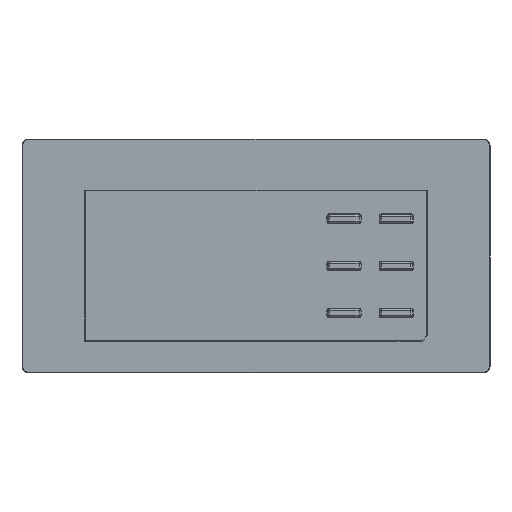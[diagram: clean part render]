
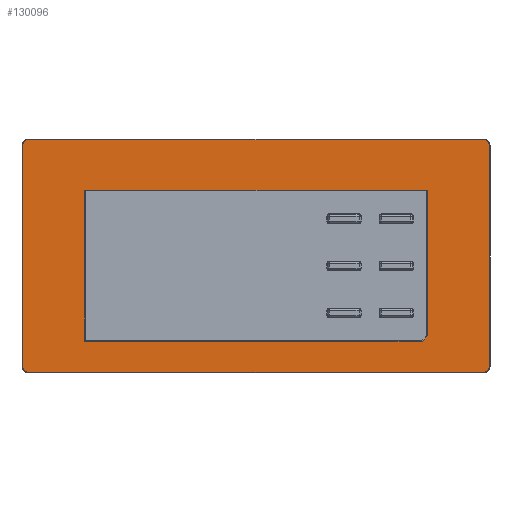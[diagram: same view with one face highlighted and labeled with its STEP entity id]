
A CAD part, top view. The second image highlights one B-rep face of the part: STEP entity #130096.
In plain terms, the highlighted planar face has unit normal (0, 0, 1).
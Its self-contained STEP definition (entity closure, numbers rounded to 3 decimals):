
#1560 = DIRECTION ( 'NONE',  ( 0., -1., 0. ) ) ;
#2993 = ORIENTED_EDGE ( 'NONE', *, *, #28975, .T. ) ;
#6974 = ORIENTED_EDGE ( 'NONE', *, *, #120108, .T. ) ;
#9304 = CARTESIAN_POINT ( 'NONE',  ( -69.9, 35.802, 6. ) ) ;
#10566 = DIRECTION ( 'NONE',  ( -0.707, -0.707, 0. ) ) ;
#11301 = EDGE_CURVE ( 'NONE', #158637, #58558, #93295, .T. ) ;
#13124 = CARTESIAN_POINT ( 'NONE',  ( 71.802, 33.9, 6. ) ) ;
#13651 = VECTOR ( 'NONE', #36610, 1000. ) ;
#13947 = CARTESIAN_POINT ( 'NONE',  ( 71.802, -33.9, 6. ) ) ;
#15464 = DIRECTION ( 'NONE',  ( 0., 1., 0. ) ) ;
#16623 = ORIENTED_EDGE ( 'NONE', *, *, #11301, .T. ) ;
#17005 = CARTESIAN_POINT ( 'NONE',  ( -52.7, 0., 6. ) ) ;
#18045 = FACE_OUTER_BOUND ( 'NONE', #141443, .T. ) ;
#20784 = ORIENTED_EDGE ( 'NONE', *, *, #75751, .T. ) ;
#21160 = DIRECTION ( 'NONE',  ( -1., 0., 0. ) ) ;
#21671 = LINE ( 'NONE', #51712, #151036 ) ;
#23268 = CARTESIAN_POINT ( 'NONE',  ( 69.9, -35.802, 6. ) ) ;
#24140 = DIRECTION ( 'NONE',  ( -1., 0., 0. ) ) ;
#24703 = VERTEX_POINT ( 'NONE', #86855 ) ;
#25135 = CIRCLE ( 'NONE', #87603, 1.902 ) ;
#25579 = CARTESIAN_POINT ( 'NONE',  ( -71.802, 0., 6. ) ) ;
#28975 = EDGE_CURVE ( 'NONE', #159448, #120193, #72844, .T. ) ;
#33175 = VECTOR ( 'NONE', #89004, 1000. ) ;
#34476 = LINE ( 'NONE', #140512, #63978 ) ;
#35950 = CARTESIAN_POINT ( 'NONE',  ( 38.641, -38.641, 6. ) ) ;
#36610 = DIRECTION ( 'NONE',  ( 1., 0., 0. ) ) ;
#40620 = VERTEX_POINT ( 'NONE', #13947 ) ;
#41252 = DIRECTION ( 'NONE',  ( 0., 1., 0. ) ) ;
#44934 = VERTEX_POINT ( 'NONE', #99793 ) ;
#46158 = CARTESIAN_POINT ( 'NONE',  ( -52.7, -26.2, 6. ) ) ;
#46314 = EDGE_CURVE ( 'NONE', #44934, #131729, #96521, .T. ) ;
#49695 = EDGE_CURVE ( 'NONE', #112550, #93059, #62740, .T. ) ;
#51141 = LINE ( 'NONE', #61444, #13651 ) ;
#51487 = FACE_BOUND ( 'NONE', #113869, .T. ) ;
#51712 = CARTESIAN_POINT ( 'NONE',  ( 52.7, 0., 6. ) ) ;
#52021 = ORIENTED_EDGE ( 'NONE', *, *, #121850, .T. ) ;
#54319 = EDGE_CURVE ( 'NONE', #65315, #152407, #51141, .T. ) ;
#54984 = VECTOR ( 'NONE', #10566, 1000. ) ;
#55826 = VECTOR ( 'NONE', #76205, 1000. ) ;
#56228 = DIRECTION ( 'NONE',  ( 0., 0., -1. ) ) ;
#57166 = LINE ( 'NONE', #17005, #90658 ) ;
#58473 = EDGE_CURVE ( 'NONE', #122361, #44934, #117161, .T. ) ;
#58558 = VERTEX_POINT ( 'NONE', #109433 ) ;
#60179 = ORIENTED_EDGE ( 'NONE', *, *, #123918, .T. ) ;
#60386 = AXIS2_PLACEMENT_3D ( 'NONE', #67877, #155311, #80544 ) ;
#61444 = CARTESIAN_POINT ( 'NONE',  ( 0., 20.2, 6. ) ) ;
#62046 = DIRECTION ( 'NONE',  ( 0., 0., 1. ) ) ;
#62740 = LINE ( 'NONE', #76302, #33175 ) ;
#63978 = VECTOR ( 'NONE', #15464, 1000. ) ;
#65315 = VERTEX_POINT ( 'NONE', #137087 ) ;
#65367 = CIRCLE ( 'NONE', #60386, 1.902 ) ;
#66943 = CARTESIAN_POINT ( 'NONE',  ( -69.9, 33.9, 6. ) ) ;
#67877 = CARTESIAN_POINT ( 'NONE',  ( -69.9, -33.9, 6. ) ) ;
#68900 = CARTESIAN_POINT ( 'NONE',  ( 69.9, 33.9, 6. ) ) ;
#71753 = ORIENTED_EDGE ( 'NONE', *, *, #46314, .T. ) ;
#72844 = LINE ( 'NONE', #112572, #135469 ) ;
#75751 = EDGE_CURVE ( 'NONE', #24703, #159448, #154829, .T. ) ;
#76205 = DIRECTION ( 'NONE',  ( 0., -1., 0. ) ) ;
#76302 = CARTESIAN_POINT ( 'NONE',  ( 0., -35.802, 6. ) ) ;
#78847 = CARTESIAN_POINT ( 'NONE',  ( 51.083, -26.2, 6. ) ) ;
#79590 = DIRECTION ( 'NONE',  ( 0., 1., 0. ) ) ;
#80544 = DIRECTION ( 'NONE',  ( 0., 1., 0. ) ) ;
#81604 = DIRECTION ( 'NONE',  ( 0., 1., 0. ) ) ;
#84195 = CARTESIAN_POINT ( 'NONE',  ( -71.802, 33.9, 6. ) ) ;
#86855 = CARTESIAN_POINT ( 'NONE',  ( 52.7, -24.583, 6. ) ) ;
#87603 = AXIS2_PLACEMENT_3D ( 'NONE', #136917, #62046, #149446 ) ;
#88933 = AXIS2_PLACEMENT_3D ( 'NONE', #131204, #56228, #143756 ) ;
#89004 = DIRECTION ( 'NONE',  ( 1., 0., 0. ) ) ;
#89528 = ORIENTED_EDGE ( 'NONE', *, *, #58473, .T. ) ;
#90658 = VECTOR ( 'NONE', #41252, 1000. ) ;
#90792 = CARTESIAN_POINT ( 'NONE',  ( -69.9, -35.802, 6. ) ) ;
#93059 = VERTEX_POINT ( 'NONE', #23268 ) ;
#93295 = LINE ( 'NONE', #25579, #55826 ) ;
#95441 = AXIS2_PLACEMENT_3D ( 'NONE', #66943, #154353, #79590 ) ;
#96521 = LINE ( 'NONE', #149914, #129583 ) ;
#99395 = ORIENTED_EDGE ( 'NONE', *, *, #119380, .T. ) ;
#99793 = CARTESIAN_POINT ( 'NONE',  ( 69.9, 35.802, 6. ) ) ;
#109433 = CARTESIAN_POINT ( 'NONE',  ( -71.802, -33.9, 6. ) ) ;
#112550 = VERTEX_POINT ( 'NONE', #90792 ) ;
#112572 = CARTESIAN_POINT ( 'NONE',  ( 0., -26.2, 6. ) ) ;
#113869 = EDGE_LOOP ( 'NONE', ( #142345, #146269, #20784, #2993, #6974 ) ) ;
#117161 = CIRCLE ( 'NONE', #127421, 1.902 ) ;
#118950 = ORIENTED_EDGE ( 'NONE', *, *, #49695, .T. ) ;
#119380 = EDGE_CURVE ( 'NONE', #58558, #112550, #65367, .T. ) ;
#120108 = EDGE_CURVE ( 'NONE', #120193, #65315, #57166, .T. ) ;
#120193 = VERTEX_POINT ( 'NONE', #46158 ) ;
#121850 = EDGE_CURVE ( 'NONE', #40620, #122361, #34476, .T. ) ;
#122361 = VERTEX_POINT ( 'NONE', #13124 ) ;
#123918 = EDGE_CURVE ( 'NONE', #93059, #40620, #25135, .T. ) ;
#127421 = AXIS2_PLACEMENT_3D ( 'NONE', #68900, #156369, #81604 ) ;
#129583 = VECTOR ( 'NONE', #21160, 1000. ) ;
#130096 = ADVANCED_FACE ( 'NONE', ( #18045, #51487 ), #143197, .F. ) ;
#131069 = EDGE_CURVE ( 'NONE', #131729, #158637, #145164, .T. ) ;
#131204 = CARTESIAN_POINT ( 'NONE',  ( 0., 0., 6. ) ) ;
#131729 = VERTEX_POINT ( 'NONE', #9304 ) ;
#135208 = CARTESIAN_POINT ( 'NONE',  ( 52.7, 20.2, 6. ) ) ;
#135469 = VECTOR ( 'NONE', #24140, 1000. ) ;
#136917 = CARTESIAN_POINT ( 'NONE',  ( 69.9, -33.9, 6. ) ) ;
#137087 = CARTESIAN_POINT ( 'NONE',  ( -52.7, 20.2, 6. ) ) ;
#140512 = CARTESIAN_POINT ( 'NONE',  ( 71.802, 0., 6. ) ) ;
#141443 = EDGE_LOOP ( 'NONE', ( #52021, #89528, #71753, #142173, #16623, #99395, #118950, #60179 ) ) ;
#142173 = ORIENTED_EDGE ( 'NONE', *, *, #131069, .T. ) ;
#142345 = ORIENTED_EDGE ( 'NONE', *, *, #54319, .T. ) ;
#143197 = PLANE ( 'NONE',  #88933 ) ;
#143756 = DIRECTION ( 'NONE',  ( 0., 1., 0. ) ) ;
#145148 = EDGE_CURVE ( 'NONE', #152407, #24703, #21671, .T. ) ;
#145164 = CIRCLE ( 'NONE', #95441, 1.902 ) ;
#146269 = ORIENTED_EDGE ( 'NONE', *, *, #145148, .T. ) ;
#149446 = DIRECTION ( 'NONE',  ( 0., 1., 0. ) ) ;
#149914 = CARTESIAN_POINT ( 'NONE',  ( 0., 35.802, 6. ) ) ;
#151036 = VECTOR ( 'NONE', #1560, 1000. ) ;
#152407 = VERTEX_POINT ( 'NONE', #135208 ) ;
#154353 = DIRECTION ( 'NONE',  ( 0., 0., 1. ) ) ;
#154829 = LINE ( 'NONE', #35950, #54984 ) ;
#155311 = DIRECTION ( 'NONE',  ( 0., 0., 1. ) ) ;
#156369 = DIRECTION ( 'NONE',  ( 0., 0., 1. ) ) ;
#158637 = VERTEX_POINT ( 'NONE', #84195 ) ;
#159448 = VERTEX_POINT ( 'NONE', #78847 ) ;
